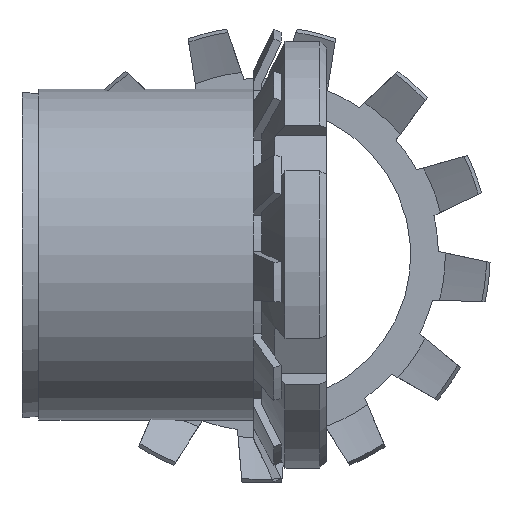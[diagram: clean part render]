
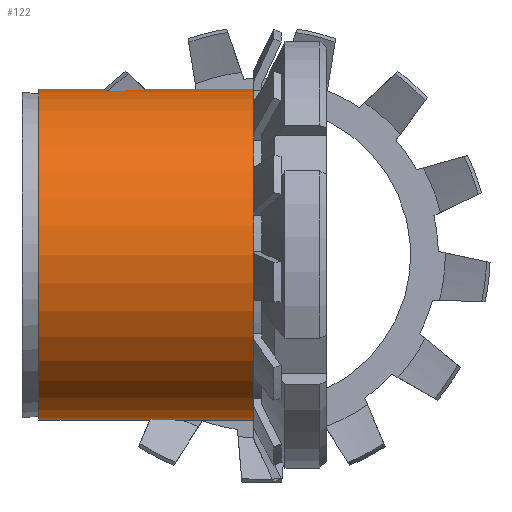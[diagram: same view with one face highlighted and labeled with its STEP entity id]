
A CAD part, left-side view. The second image highlights one B-rep face of the part: STEP entity #122.
In plain terms, the highlighted cylindrical face has radius 25 mm (diameter 50 mm), a full revolution.
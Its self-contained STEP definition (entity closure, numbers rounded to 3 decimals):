
#122 = ADVANCED_FACE( '', ( #260, #261 ), #262, .T. );
#260 = FACE_OUTER_BOUND( '', #426, .T. );
#261 = FACE_OUTER_BOUND( '', #427, .T. );
#262 = CYLINDRICAL_SURFACE( '', #428, 25. );
#426 = EDGE_LOOP( '', ( #751 ) );
#427 = EDGE_LOOP( '', ( #752 ) );
#428 = AXIS2_PLACEMENT_3D( '', #753, #754, #755 );
#751 = ORIENTED_EDGE( '', *, *, #1311, .F. );
#752 = ORIENTED_EDGE( '', *, *, #1312, .T. );
#753 = CARTESIAN_POINT( '', ( 0., -60., 0. ) );
#754 = DIRECTION( '', ( 0., 1., 0. ) );
#755 = DIRECTION( '', ( 0., 0., -1. ) );
#1311 = EDGE_CURVE( '', #1713, #1713, #1714, .T. );
#1312 = EDGE_CURVE( '', #1715, #1715, #1716, .T. );
#1713 = VERTEX_POINT( '', #2827 );
#1714 = CIRCLE( '', #2828, 25. );
#1715 = VERTEX_POINT( '', #2829 );
#1716 = CIRCLE( '', #2830, 25. );
#2827 = CARTESIAN_POINT( '', ( 0., 0., -25. ) );
#2828 = AXIS2_PLACEMENT_3D( '', #3374, #3375, #3376 );
#2829 = CARTESIAN_POINT( '', ( 0., 33.694, -25. ) );
#2830 = AXIS2_PLACEMENT_3D( '', #3377, #3378, #3379 );
#3374 = CARTESIAN_POINT( '', ( 0., 0., 0. ) );
#3375 = DIRECTION( '', ( 0., -1., 0. ) );
#3376 = DIRECTION( '', ( 0., 0., -1. ) );
#3377 = CARTESIAN_POINT( '', ( 0., 33.694, 0. ) );
#3378 = DIRECTION( '', ( 0., -1., 0. ) );
#3379 = DIRECTION( '', ( 0., 0., -1. ) );
